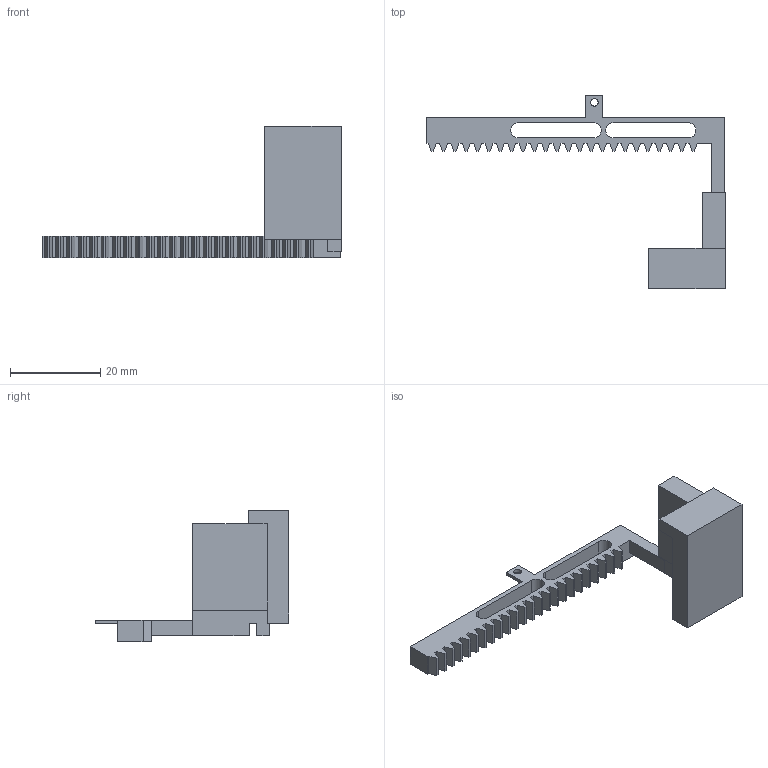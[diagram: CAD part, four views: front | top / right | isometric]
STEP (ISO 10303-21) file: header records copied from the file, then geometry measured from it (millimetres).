
FILE_DESCRIPTION(('Open CASCADE Model'),'2;1');
FILE_NAME('Open CASCADE Shape Model','2026-11-24T20:33:37',('Author'),( 'Open CASCADE'),'Open CASCADE STEP processor 7.8','Open CASCADE 7.8' ,'Unknown');
FILE_SCHEMA(('AUTOMOTIVE_DESIGN { 1 0 10303 214 1 1 1 1 }'));
Length unit declared in the file: millimetre
Products named in the file (1): Open CASCADE STEP translator 7.8 9
Bounding box: 66.12 x 42.9 x 29.15 mm (x, y, z)
Volume: 5564 mm3; surface area: 4504.4 mm2
Topology: 1 solids, 1 shells, 138 faces, 404 edges, 269 vertices
Faces by surface type: plane 133, cylinder 5
Full cylindrical faces by diameter (mm): 1.7 x1
Entity records: 9791 total; most frequent: CARTESIAN_POINT 1674, DIRECTION 1491, LINE 1192, VECTOR 1192, ORIENTED_EDGE 808, PCURVE 808, DEFINITIONAL_REPRESENTATION 808, EDGE_CURVE 404
